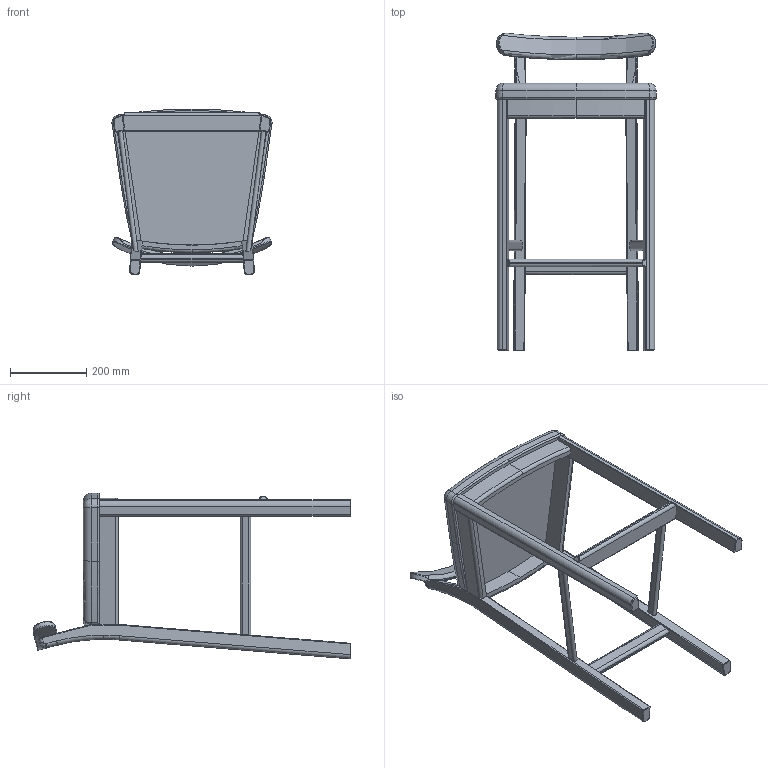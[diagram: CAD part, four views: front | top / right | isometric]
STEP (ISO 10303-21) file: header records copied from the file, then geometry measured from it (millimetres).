
FILE_DESCRIPTION (( 'STEP AP214' ), '1' );
FILE_NAME ('F僴僀僠僃傾乕CG.STEP', '2026-03-25T08:43:57', ( '' ), ( '' ), 'SwSTEP 2.0', 'SolidWorks 2025', '' );
FILE_SCHEMA (( 'AUTOMOTIVE_DESIGN' ));
Length unit declared in the file: millimetre
Products named in the file (1): FハイチェアーCG
Bounding box: 420.47 x 833.94 x 435.42 mm (x, y, z)
Volume: 10604195.5 mm3; surface area: 1036382 mm2
Topology: 14 solids, 14 shells, 302 faces, 719 edges, 442 vertices
Faces by surface type: plane 111, cylinder 106, torus 53, bspline 24, cone 8
Entity records: 11168 total; most frequent: CARTESIAN_POINT 4336, ORIENTED_EDGE 1426, DIRECTION 1372, EDGE_CURVE 713, AXIS2_PLACEMENT_3D 529, VERTEX_POINT 442, LINE 314, VECTOR 314
